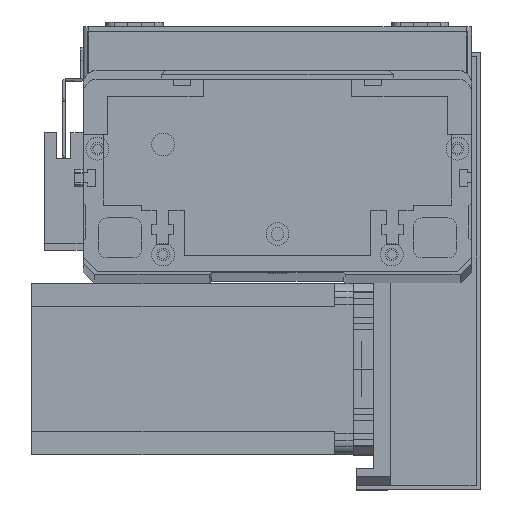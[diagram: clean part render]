
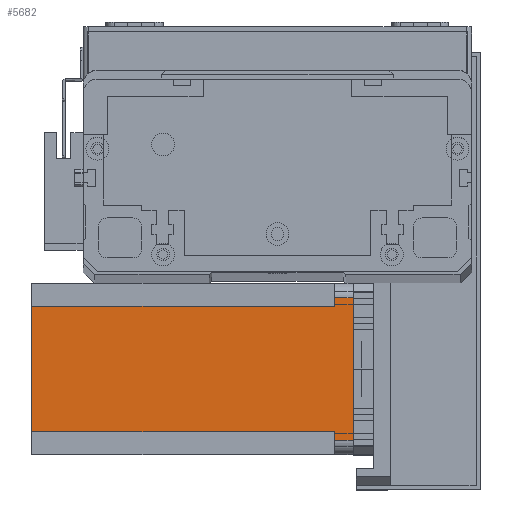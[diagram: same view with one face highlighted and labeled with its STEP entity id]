
A CAD part, top view. The second image highlights one B-rep face of the part: STEP entity #5682.
In plain terms, the highlighted planar face has unit normal (0, 0, 1) as drawn and (0, -1, 0) by its records, which use the part's own axes.
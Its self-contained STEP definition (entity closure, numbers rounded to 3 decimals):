
#615 = ORIENTED_EDGE ( 'NONE', *, *, #3168, .F. ) ;
#955 = CARTESIAN_POINT ( 'NONE',  ( 8., 0., -112.5 ) ) ;
#1639 = LINE ( 'NONE', #22592, #23454 ) ;
#1984 = EDGE_CURVE ( 'NONE', #7603, #9469, #1639, .T. ) ;
#2202 = CARTESIAN_POINT ( 'NONE',  ( 5., 0., -6.5 ) ) ;
#2981 = ORIENTED_EDGE ( 'NONE', *, *, #23955, .T. ) ;
#3164 = VERTEX_POINT ( 'NONE', #23471 ) ;
#3168 = EDGE_CURVE ( 'NONE', #3164, #4642, #23732, .T. ) ;
#3566 = VECTOR ( 'NONE', #28637, 1000. ) ;
#3773 = DIRECTION ( 'NONE',  ( 0., 0., -1. ) ) ;
#4083 = DIRECTION ( 'NONE',  ( 0., -1., 0. ) ) ;
#4642 = VERTEX_POINT ( 'NONE', #21886 ) ;
#4887 = LINE ( 'NONE', #17580, #22041 ) ;
#5196 = VECTOR ( 'NONE', #22098, 1000. ) ;
#5292 = LINE ( 'NONE', #5763, #23107 ) ;
#5682 = ADVANCED_FACE ( 'NONE', ( #6303 ), #6044, .T. ) ;
#5763 = CARTESIAN_POINT ( 'NONE',  ( 8., 0., -6.5 ) ) ;
#5832 = VERTEX_POINT ( 'NONE', #15548 ) ;
#6044 = PLANE ( 'NONE',  #8197 ) ;
#6211 = LINE ( 'NONE', #7983, #3566 ) ;
#6303 = FACE_OUTER_BOUND ( 'NONE', #20650, .T. ) ;
#7603 = VERTEX_POINT ( 'NONE', #25807 ) ;
#7983 = CARTESIAN_POINT ( 'NONE',  ( 5., 0., -112.5 ) ) ;
#8057 = CARTESIAN_POINT ( 'NONE',  ( 0., 0., -112.5 ) ) ;
#8148 = CARTESIAN_POINT ( 'NONE',  ( 52., 0., -6.5 ) ) ;
#8197 = AXIS2_PLACEMENT_3D ( 'NONE', #8057, #4083, #3773 ) ;
#8588 = CARTESIAN_POINT ( 'NONE',  ( 55., 0., 0. ) ) ;
#9469 = VERTEX_POINT ( 'NONE', #8588 ) ;
#9861 = EDGE_CURVE ( 'NONE', #12890, #4642, #19926, .T. ) ;
#9968 = EDGE_CURVE ( 'NONE', #5832, #11149, #5292, .T. ) ;
#10125 = DIRECTION ( 'NONE',  ( 1., 0., 0. ) ) ;
#10217 = EDGE_CURVE ( 'NONE', #12890, #5832, #17439, .T. ) ;
#11066 = DIRECTION ( 'NONE',  ( 0., 0., -1. ) ) ;
#11149 = VERTEX_POINT ( 'NONE', #2202 ) ;
#12206 = LINE ( 'NONE', #8148, #5196 ) ;
#12890 = VERTEX_POINT ( 'NONE', #24442 ) ;
#12909 = CARTESIAN_POINT ( 'NONE',  ( 55., 0., -6.5 ) ) ;
#15548 = CARTESIAN_POINT ( 'NONE',  ( 8., 0., -6.5 ) ) ;
#17439 = LINE ( 'NONE', #955, #22058 ) ;
#17580 = CARTESIAN_POINT ( 'NONE',  ( 55., 0., -112.5 ) ) ;
#17747 = VECTOR ( 'NONE', #11066, 1000. ) ;
#19260 = VECTOR ( 'NONE', #10125, 1000. ) ;
#19926 = LINE ( 'NONE', #26164, #19260 ) ;
#20134 = ORIENTED_EDGE ( 'NONE', *, *, #9861, .T. ) ;
#20351 = VERTEX_POINT ( 'NONE', #12909 ) ;
#20650 = EDGE_LOOP ( 'NONE', ( #2981, #22532, #21572, #21993, #25887, #26301, #20134, #615 ) ) ;
#21487 = DIRECTION ( 'NONE',  ( 1., 0., 0. ) ) ;
#21572 = ORIENTED_EDGE ( 'NONE', *, *, #1984, .F. ) ;
#21886 = CARTESIAN_POINT ( 'NONE',  ( 52., 0., -112.5 ) ) ;
#21993 = ORIENTED_EDGE ( 'NONE', *, *, #27721, .T. ) ;
#22041 = VECTOR ( 'NONE', #28848, 1000. ) ;
#22058 = VECTOR ( 'NONE', #24186, 1000. ) ;
#22082 = DIRECTION ( 'NONE',  ( -1., 0., 0. ) ) ;
#22098 = DIRECTION ( 'NONE',  ( 1., 0., 0. ) ) ;
#22532 = ORIENTED_EDGE ( 'NONE', *, *, #25084, .T. ) ;
#22592 = CARTESIAN_POINT ( 'NONE',  ( 0., 0., 0. ) ) ;
#23107 = VECTOR ( 'NONE', #22082, 1000. ) ;
#23454 = VECTOR ( 'NONE', #21487, 1000. ) ;
#23471 = CARTESIAN_POINT ( 'NONE',  ( 52., 0., -6.5 ) ) ;
#23732 = LINE ( 'NONE', #28019, #17747 ) ;
#23955 = EDGE_CURVE ( 'NONE', #3164, #20351, #12206, .T. ) ;
#24186 = DIRECTION ( 'NONE',  ( 0., 0., 1. ) ) ;
#24442 = CARTESIAN_POINT ( 'NONE',  ( 8., 0., -112.5 ) ) ;
#25084 = EDGE_CURVE ( 'NONE', #20351, #9469, #4887, .T. ) ;
#25807 = CARTESIAN_POINT ( 'NONE',  ( 5., 0., 0. ) ) ;
#25887 = ORIENTED_EDGE ( 'NONE', *, *, #9968, .F. ) ;
#26164 = CARTESIAN_POINT ( 'NONE',  ( 0., 0., -112.5 ) ) ;
#26301 = ORIENTED_EDGE ( 'NONE', *, *, #10217, .F. ) ;
#27721 = EDGE_CURVE ( 'NONE', #7603, #11149, #6211, .T. ) ;
#28019 = CARTESIAN_POINT ( 'NONE',  ( 52., 0., -112.5 ) ) ;
#28637 = DIRECTION ( 'NONE',  ( 0., 0., -1. ) ) ;
#28848 = DIRECTION ( 'NONE',  ( 0., 0., 1. ) ) ;
